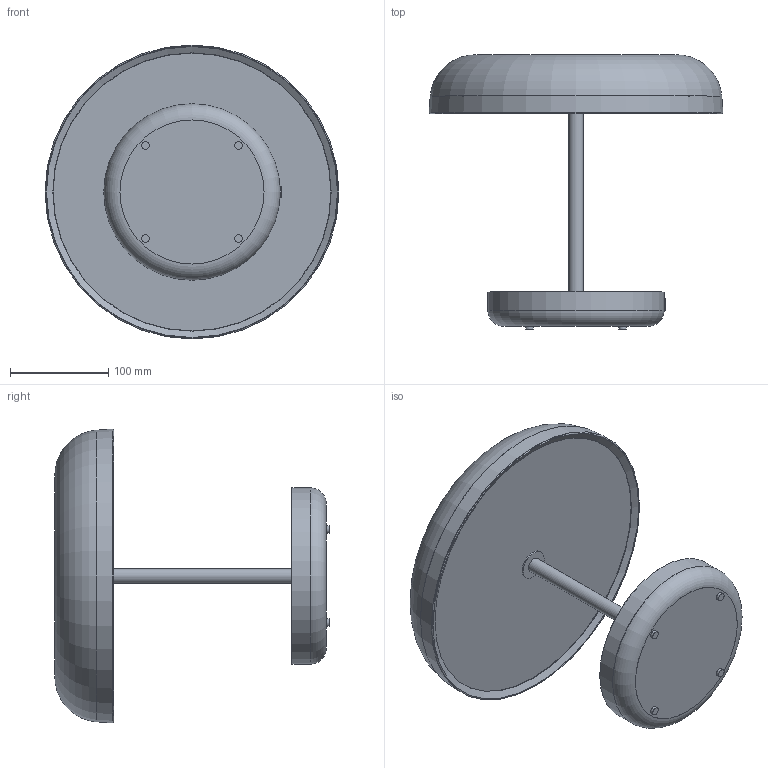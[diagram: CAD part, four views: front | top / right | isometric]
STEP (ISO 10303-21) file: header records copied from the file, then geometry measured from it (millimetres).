
FILE_DESCRIPTION(/* description */ (''),/* implementation_level */ '2;1');
FILE_NAME(/* name */ 'C:\Users\msina\Desktop\LCItalia\PER RENDER\PER SITO\zero tavolo.stp',/* time_stamp */ '2022-10-07T13:28:13+02:00',/* author */ ('msina'),/* organization */ (''),/* preprocessor_version */ 'ST-DEVELOPER v18',/* originating_system */ 'Autodesk Inventor 2020',/* authorisation */ '');
FILE_SCHEMA (('AUTOMOTIVE_DESIGN { 1 0 10303 214 3 1 1 }'));
Length unit declared in the file: millimetre
Products named in the file (1): zero tavolo PER RENDER
Bounding box: 299.81 x 280 x 299.81 mm (x, y, z)
Volume: 282908.9 mm3; surface area: 502960.8 mm2
Topology: 12 solids, 12 shells, 57 faces, 129 edges, 99 vertices
Faces by surface type: plane 27, cylinder 16, torus 9, cone 5
Full cylindrical faces by diameter (mm): 6 x1, 8 x4, 12 x1, 15 x2, 30 x1, 53 x1, 55 x1, 57 x1, 177 x1, 178 x1, 180 x1, 284.755 x1
Entity records: 1761 total; most frequent: DIRECTION 353, CARTESIAN_POINT 286, ORIENTED_EDGE 258, AXIS2_PLACEMENT_3D 166, EDGE_CURVE 129, CIRCLE 108, VERTEX_POINT 99, EDGE_LOOP 64
